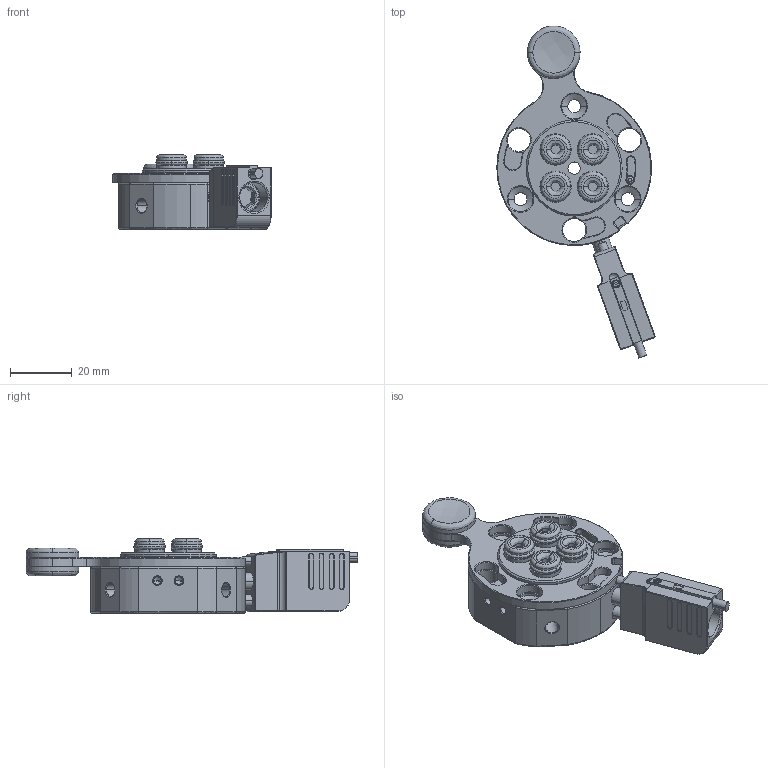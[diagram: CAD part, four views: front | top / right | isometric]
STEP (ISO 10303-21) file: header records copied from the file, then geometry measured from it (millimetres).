
FILE_DESCRIPTION (( 'STEP AP203' ), '1' );
FILE_NAME ('QC-R50K.STEP', '2024-03-20T03:16:07', ( '微软用户' ), ( '微软中国' ), 'SwSTEP 2.0', 'SolidWorks 2018', '' );
FILE_SCHEMA (( 'CONFIG_CONTROL_DESIGN' ));
Length unit declared in the file: millimetre
Products named in the file (1): QC-R50K
Bounding box: 51.19 x 107.28 x 24 mm (x, y, z)
Volume: 37116.7 mm3; surface area: 22798.6 mm2
Topology: 2 solids, 30 shells, 1469 faces, 3353 edges, 1983 vertices
Faces by surface type: cone 576, cylinder 463, plane 291, bspline 137, torus 2
Entity records: 47328 total; most frequent: CARTESIAN_POINT 14417, DIRECTION 7240, ORIENTED_EDGE 6628, EDGE_CURVE 3314, AXIS2_PLACEMENT_3D 2931, VERTEX_POINT 1983, EDGE_LOOP 1605, CIRCLE 1598
